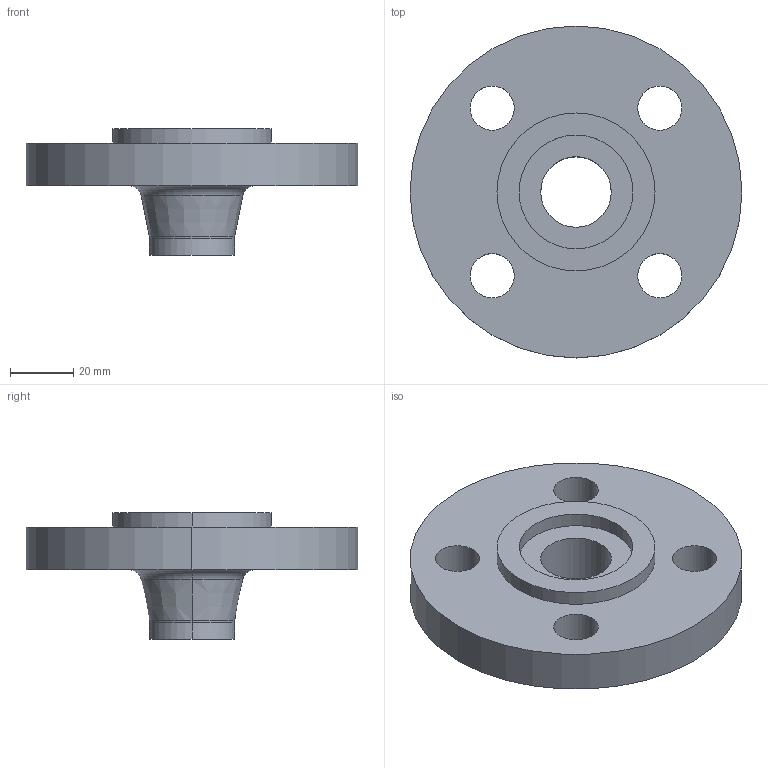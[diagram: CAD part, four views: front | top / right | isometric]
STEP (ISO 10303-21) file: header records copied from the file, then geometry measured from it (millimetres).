
FILE_DESCRIPTION (( 'STEP AP214' ), '1' );
FILE_NAME ('PN40 DN20 Type 11 - Type C Face.STEP', '2018-12-29T18:20:47', ( '' ), ( '' ), 'SwSTEP 2.0', 'SolidWorks 2019', '' );
FILE_SCHEMA (( 'AUTOMOTIVE_DESIGN' ));
Length unit declared in the file: millimetre
Products named in the file (1): PN40 DN20 Type 11 - Type C Face
Bounding box: 105 x 105 x 40 mm (x, y, z)
Volume: 114156.4 mm3; surface area: 27477.8 mm2
Topology: 1 solids, 1 shells, 29 faces, 66 edges, 42 vertices
Faces by surface type: cylinder 18, plane 5, torus 4, cone 2
Entity records: 892 total; most frequent: DIRECTION 172, CARTESIAN_POINT 138, ORIENTED_EDGE 132, AXIS2_PLACEMENT_3D 76, EDGE_CURVE 66, CIRCLE 46, VERTEX_POINT 42, EDGE_LOOP 42
